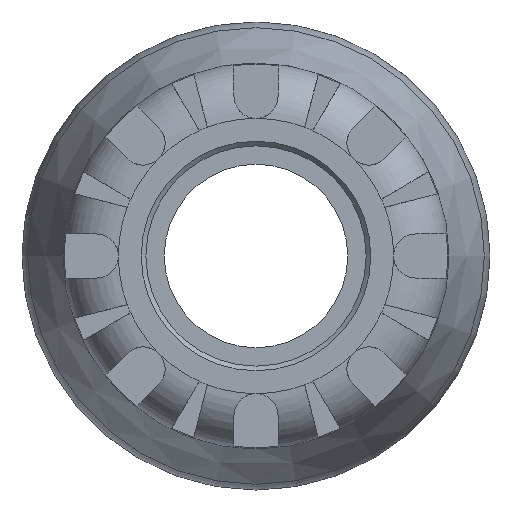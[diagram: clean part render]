
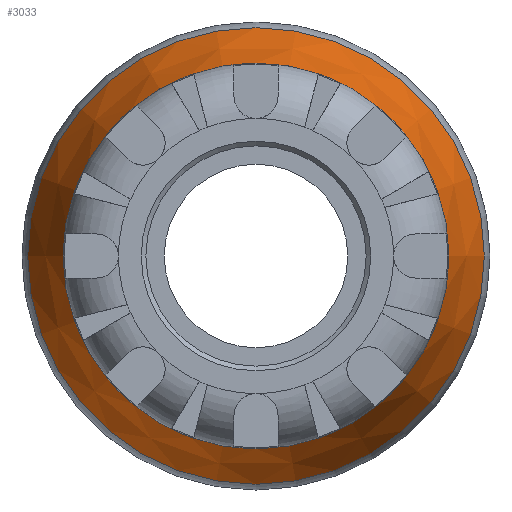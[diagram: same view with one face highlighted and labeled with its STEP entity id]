
A CAD part, left-side view. The second image highlights one B-rep face of the part: STEP entity #3033.
In plain terms, the highlighted conical face has half-angle 20 degrees and reference radius 38.25 mm.
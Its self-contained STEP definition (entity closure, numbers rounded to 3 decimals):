
#331=FACE_OUTER_BOUND('',#508,.T.);
#508=EDGE_LOOP('',(#2147,#2148,#2149,#2150,#2151,#2152,#2153,#2154));
#674=LINE('',#5030,#831);
#831=VECTOR('',#3859,38.25);
#1063=CIRCLE('',#3324,41.475);
#1064=CIRCLE('',#3325,41.475);
#1065=CIRCLE('',#3326,41.475);
#1067=CIRCLE('',#3329,35.025);
#1068=CIRCLE('',#3330,35.025);
#1069=CIRCLE('',#3331,35.025);
#1273=VERTEX_POINT('',#5020);
#1274=VERTEX_POINT('',#5022);
#1275=VERTEX_POINT('',#5024);
#1276=VERTEX_POINT('',#5029);
#1277=VERTEX_POINT('',#5031);
#1278=VERTEX_POINT('',#5033);
#1599=EDGE_CURVE('',#1273,#1274,#1063,.T.);
#1600=EDGE_CURVE('',#1274,#1275,#1064,.T.);
#1601=EDGE_CURVE('',#1275,#1273,#1065,.T.);
#1603=EDGE_CURVE('',#1274,#1276,#674,.T.);
#1604=EDGE_CURVE('',#1277,#1276,#1067,.T.);
#1605=EDGE_CURVE('',#1278,#1277,#1068,.T.);
#1606=EDGE_CURVE('',#1276,#1278,#1069,.T.);
#2147=ORIENTED_EDGE('',*,*,#1601,.F.);
#2148=ORIENTED_EDGE('',*,*,#1600,.F.);
#2149=ORIENTED_EDGE('',*,*,#1603,.T.);
#2150=ORIENTED_EDGE('',*,*,#1604,.F.);
#2151=ORIENTED_EDGE('',*,*,#1605,.F.);
#2152=ORIENTED_EDGE('',*,*,#1606,.F.);
#2153=ORIENTED_EDGE('',*,*,#1603,.F.);
#2154=ORIENTED_EDGE('',*,*,#1599,.F.);
#2858=CONICAL_SURFACE('',#3328,38.25,0.349);
#3033=ADVANCED_FACE('',(#331),#2858,.T.);
#3324=AXIS2_PLACEMENT_3D('',#5023,#3849,#3850);
#3325=AXIS2_PLACEMENT_3D('',#5025,#3851,#3852);
#3326=AXIS2_PLACEMENT_3D('',#5026,#3853,#3854);
#3328=AXIS2_PLACEMENT_3D('',#5028,#3857,#3858);
#3329=AXIS2_PLACEMENT_3D('',#5032,#3860,#3861);
#3330=AXIS2_PLACEMENT_3D('',#5034,#3862,#3863);
#3331=AXIS2_PLACEMENT_3D('',#5035,#3864,#3865);
#3849=DIRECTION('center_axis',(1.,0.,0.));
#3850=DIRECTION('ref_axis',(0.,-1.,0.));
#3851=DIRECTION('center_axis',(1.,0.,0.));
#3852=DIRECTION('ref_axis',(0.,-1.,0.));
#3853=DIRECTION('center_axis',(1.,0.,0.));
#3854=DIRECTION('ref_axis',(0.,-1.,0.));
#3857=DIRECTION('center_axis',(1.,0.,0.));
#3858=DIRECTION('ref_axis',(0.,1.,0.));
#3859=DIRECTION('',(-0.94,0.342,0.));
#3860=DIRECTION('center_axis',(-1.,0.,0.));
#3861=DIRECTION('ref_axis',(0.,-1.,0.));
#3862=DIRECTION('center_axis',(-1.,0.,0.));
#3863=DIRECTION('ref_axis',(0.,-1.,0.));
#3864=DIRECTION('center_axis',(-1.,0.,0.));
#3865=DIRECTION('ref_axis',(0.,-1.,0.));
#5020=CARTESIAN_POINT('',(48.323,0.,41.475));
#5022=CARTESIAN_POINT('',(48.323,-41.475,0.));
#5023=CARTESIAN_POINT('Origin',(48.323,0.,0.));
#5024=CARTESIAN_POINT('',(48.323,41.475,0.));
#5025=CARTESIAN_POINT('Origin',(48.323,0.,0.));
#5026=CARTESIAN_POINT('Origin',(48.323,0.,0.));
#5028=CARTESIAN_POINT('Origin',(39.463,0.,0.));
#5029=CARTESIAN_POINT('',(30.603,-35.025,0.));
#5030=CARTESIAN_POINT('',(39.463,-38.25,0.));
#5031=CARTESIAN_POINT('',(30.603,35.025,0.));
#5032=CARTESIAN_POINT('Origin',(30.603,0.,0.));
#5033=CARTESIAN_POINT('',(30.603,0.,35.025));
#5034=CARTESIAN_POINT('Origin',(30.603,0.,0.));
#5035=CARTESIAN_POINT('Origin',(30.603,0.,0.));
